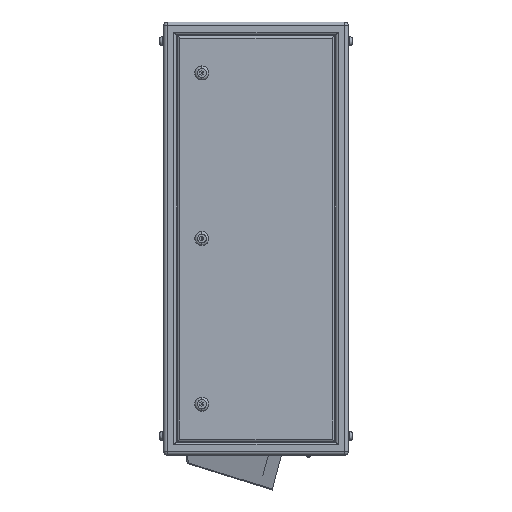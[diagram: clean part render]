
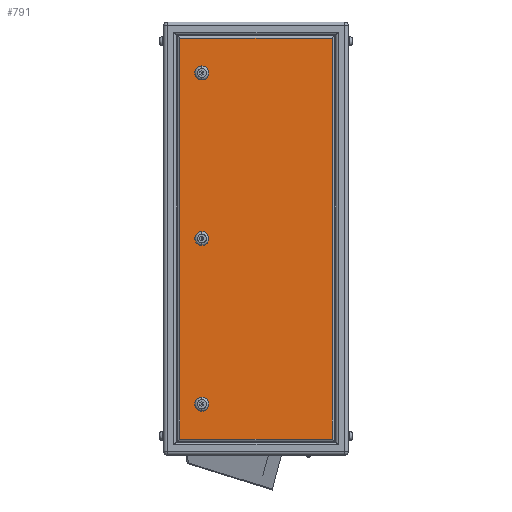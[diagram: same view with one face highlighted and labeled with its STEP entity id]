
A CAD part, left-side view. The second image highlights one B-rep face of the part: STEP entity #791.
In plain terms, the highlighted planar face has unit normal (-1, 0, 0).
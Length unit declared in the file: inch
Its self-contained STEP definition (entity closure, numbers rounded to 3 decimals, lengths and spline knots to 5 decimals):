
#148 = CARTESIAN_POINT ( 'NONE',  ( -17., 4.25, -13.55 ) ) ;
#406 = VERTEX_POINT ( 'NONE', #17776 ) ;
#666 = CARTESIAN_POINT ( 'NONE',  ( -17., 7.25, -17. ) ) ;
#732 = ORIENTED_EDGE ( 'NONE', *, *, #16948, .T. ) ;
#791 = ADVANCED_FACE ( 'NONE', ( #20765, #19006, #4393, #8693 ), #1255, .F. ) ;
#1004 = CARTESIAN_POINT ( 'NONE',  ( -17., 4.25, 0.55 ) ) ;
#1255 = PLANE ( 'NONE',  #19171 ) ;
#1315 = DIRECTION ( 'NONE',  ( 0., 0., -1. ) ) ;
#1399 = DIRECTION ( 'NONE',  ( 1., 0., 0. ) ) ;
#3217 = AXIS2_PLACEMENT_3D ( 'NONE', #3721, #23622, #16195 ) ;
#3447 = ORIENTED_EDGE ( 'NONE', *, *, #16046, .T. ) ;
#3721 = CARTESIAN_POINT ( 'NONE',  ( -17., 4.25, 0. ) ) ;
#3770 = AXIS2_PLACEMENT_3D ( 'NONE', #4438, #15652, #9963 ) ;
#4338 = LINE ( 'NONE', #14346, #8324 ) ;
#4393 = FACE_BOUND ( 'NONE', #20428, .T. ) ;
#4438 = CARTESIAN_POINT ( 'NONE',  ( -17., 4.25, 13. ) ) ;
#4493 = CARTESIAN_POINT ( 'NONE',  ( -17., 4.25, 13.55 ) ) ;
#4743 = CARTESIAN_POINT ( 'NONE',  ( -17., 5.99, 15.74 ) ) ;
#4840 = VERTEX_POINT ( 'NONE', #17022 ) ;
#4879 = LINE ( 'NONE', #16447, #22114 ) ;
#6100 = CARTESIAN_POINT ( 'NONE',  ( -17., 4.25, 13. ) ) ;
#6353 = DIRECTION ( 'NONE',  ( 0., 0., -1. ) ) ;
#6921 = AXIS2_PLACEMENT_3D ( 'NONE', #9395, #22496, #13162 ) ;
#6966 = CIRCLE ( 'NONE', #6921, 0.55 ) ;
#7195 = VERTEX_POINT ( 'NONE', #4493 ) ;
#7609 = VERTEX_POINT ( 'NONE', #148 ) ;
#8224 = LINE ( 'NONE', #14523, #9686 ) ;
#8311 = VERTEX_POINT ( 'NONE', #13215 ) ;
#8324 = VECTOR ( 'NONE', #17866, 39.37008 ) ;
#8693 = FACE_OUTER_BOUND ( 'NONE', #9930, .T. ) ;
#9395 = CARTESIAN_POINT ( 'NONE',  ( -17., 4.25, -13. ) ) ;
#9686 = VECTOR ( 'NONE', #10501, 39.37008 ) ;
#9930 = EDGE_LOOP ( 'NONE', ( #22943, #11062, #17039, #732 ) ) ;
#9963 = DIRECTION ( 'NONE',  ( 0., 0., -1. ) ) ;
#10156 = DIRECTION ( 'NONE',  ( 0., 1., 0. ) ) ;
#10300 = CARTESIAN_POINT ( 'NONE',  ( -17., 4.25, 12.45 ) ) ;
#10501 = DIRECTION ( 'NONE',  ( 0., -1., 0. ) ) ;
#10557 = EDGE_LOOP ( 'NONE', ( #20083, #20096 ) ) ;
#11062 = ORIENTED_EDGE ( 'NONE', *, *, #21924, .T. ) ;
#11243 = VERTEX_POINT ( 'NONE', #4743 ) ;
#11274 = VERTEX_POINT ( 'NONE', #15623 ) ;
#11292 = VERTEX_POINT ( 'NONE', #1004 ) ;
#11323 = AXIS2_PLACEMENT_3D ( 'NONE', #6100, #20872, #22561 ) ;
#11776 = EDGE_CURVE ( 'NONE', #4840, #11243, #13761, .T. ) ;
#12250 = ORIENTED_EDGE ( 'NONE', *, *, #13230, .T. ) ;
#12496 = CARTESIAN_POINT ( 'NONE',  ( -17., 4.25, -13. ) ) ;
#12612 = EDGE_CURVE ( 'NONE', #11292, #11274, #17270, .T. ) ;
#13162 = DIRECTION ( 'NONE',  ( 0., 0., -1. ) ) ;
#13186 = CARTESIAN_POINT ( 'NONE',  ( -17., -5.99, -15.74 ) ) ;
#13215 = CARTESIAN_POINT ( 'NONE',  ( -17., 4.25, -12.45 ) ) ;
#13230 = EDGE_CURVE ( 'NONE', #7195, #18769, #21261, .T. ) ;
#13260 = ORIENTED_EDGE ( 'NONE', *, *, #15197, .F. ) ;
#13675 = CARTESIAN_POINT ( 'NONE',  ( -17., 7.25, 15.74 ) ) ;
#13761 = LINE ( 'NONE', #13675, #14350 ) ;
#13821 = AXIS2_PLACEMENT_3D ( 'NONE', #17337, #17500, #6353 ) ;
#14015 = DIRECTION ( 'NONE',  ( -1., 0., 0. ) ) ;
#14193 = CIRCLE ( 'NONE', #3770, 0.55 ) ;
#14346 = CARTESIAN_POINT ( 'NONE',  ( -17., 5.99, -17. ) ) ;
#14350 = VECTOR ( 'NONE', #10156, 39.37008 ) ;
#14426 = EDGE_CURVE ( 'NONE', #11274, #11292, #15922, .T. ) ;
#14523 = CARTESIAN_POINT ( 'NONE',  ( -17., 7.25, -15.74 ) ) ;
#15197 = EDGE_CURVE ( 'NONE', #7609, #8311, #18448, .T. ) ;
#15623 = CARTESIAN_POINT ( 'NONE',  ( -17., 4.25, -0.55 ) ) ;
#15652 = DIRECTION ( 'NONE',  ( 1., 0., 0. ) ) ;
#15922 = CIRCLE ( 'NONE', #13821, 0.55 ) ;
#16046 = EDGE_CURVE ( 'NONE', #18769, #7195, #14193, .T. ) ;
#16195 = DIRECTION ( 'NONE',  ( 0., 0., -1. ) ) ;
#16447 = CARTESIAN_POINT ( 'NONE',  ( -17., -5.99, -17. ) ) ;
#16948 = EDGE_CURVE ( 'NONE', #11243, #406, #4338, .T. ) ;
#17022 = CARTESIAN_POINT ( 'NONE',  ( -17., -5.99, 15.74 ) ) ;
#17039 = ORIENTED_EDGE ( 'NONE', *, *, #11776, .T. ) ;
#17270 = CIRCLE ( 'NONE', #3217, 0.55 ) ;
#17337 = CARTESIAN_POINT ( 'NONE',  ( -17., 4.25, 0. ) ) ;
#17500 = DIRECTION ( 'NONE',  ( 1., 0., 0. ) ) ;
#17776 = CARTESIAN_POINT ( 'NONE',  ( -17., 5.99, -15.74 ) ) ;
#17866 = DIRECTION ( 'NONE',  ( 0., 0., -1. ) ) ;
#18448 = CIRCLE ( 'NONE', #19231, 0.55 ) ;
#18475 = VERTEX_POINT ( 'NONE', #13186 ) ;
#18769 = VERTEX_POINT ( 'NONE', #10300 ) ;
#19006 = FACE_BOUND ( 'NONE', #20668, .T. ) ;
#19171 = AXIS2_PLACEMENT_3D ( 'NONE', #666, #1399, #22794 ) ;
#19231 = AXIS2_PLACEMENT_3D ( 'NONE', #12496, #14015, #1315 ) ;
#20083 = ORIENTED_EDGE ( 'NONE', *, *, #14426, .T. ) ;
#20096 = ORIENTED_EDGE ( 'NONE', *, *, #12612, .T. ) ;
#20428 = EDGE_LOOP ( 'NONE', ( #3447, #12250 ) ) ;
#20668 = EDGE_LOOP ( 'NONE', ( #13260, #23692 ) ) ;
#20765 = FACE_BOUND ( 'NONE', #10557, .T. ) ;
#20851 = EDGE_CURVE ( 'NONE', #8311, #7609, #6966, .T. ) ;
#20872 = DIRECTION ( 'NONE',  ( 1., 0., 0. ) ) ;
#21261 = CIRCLE ( 'NONE', #11323, 0.55 ) ;
#21924 = EDGE_CURVE ( 'NONE', #18475, #4840, #4879, .T. ) ;
#22034 = DIRECTION ( 'NONE',  ( 0., 0., 1. ) ) ;
#22114 = VECTOR ( 'NONE', #22034, 39.37008 ) ;
#22496 = DIRECTION ( 'NONE',  ( -1., 0., 0. ) ) ;
#22561 = DIRECTION ( 'NONE',  ( 0., 0., -1. ) ) ;
#22594 = EDGE_CURVE ( 'NONE', #406, #18475, #8224, .T. ) ;
#22794 = DIRECTION ( 'NONE',  ( 0., 0., -1. ) ) ;
#22943 = ORIENTED_EDGE ( 'NONE', *, *, #22594, .T. ) ;
#23622 = DIRECTION ( 'NONE',  ( 1., 0., 0. ) ) ;
#23692 = ORIENTED_EDGE ( 'NONE', *, *, #20851, .F. ) ;
